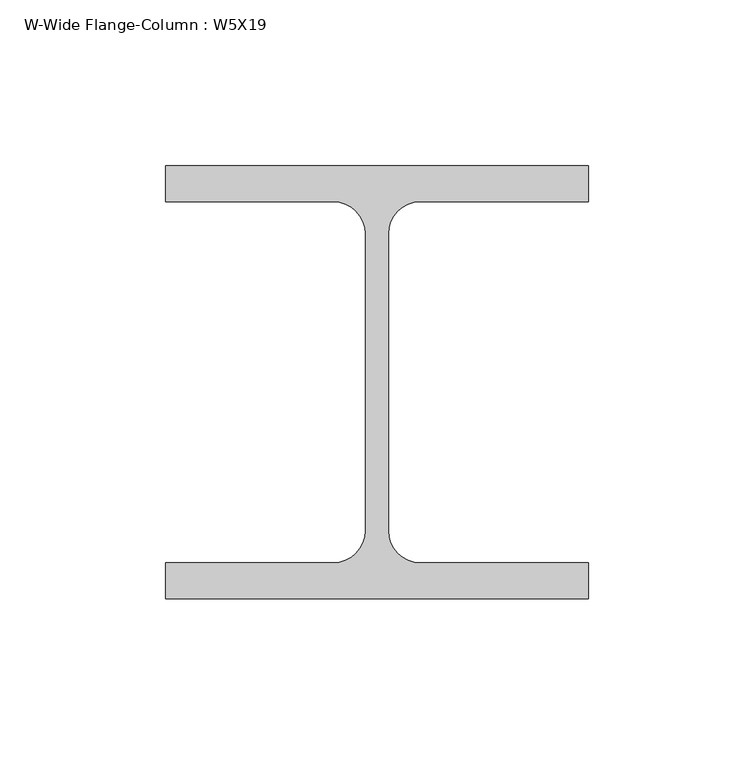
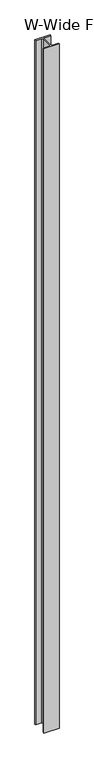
"""IFC4 building model written with IfcOpenShell, lengths in millimetres: column geometry, W-Wide Flange-Column : W5X19."""

from ifc_helpers import new_model, si_unit, point, frame_2d, origin, origin_with_axes, place, context, project, spatial, polyline, circle_curve, trimmed, segment, composite_curve, outline, extrude, source, transform, mapped, element, save


def w_wide_flange_column_w5x19_fcac8365(model_context):
    return source(origin(), model_context, "Body", "SweptSolid", [
        extrude(outline(composite_curve([segment(polyline([(63.881, 65.405), (63.881, 54.483), (13.1445, 54.483)]), True, "CONTINUOUS"), segment(trimmed(circle_curve(frame_2d((13.1445, 44.7675)), 9.7155), [point((13.1445, 54.483))], [point((3.429, 44.7675))], True, "CARTESIAN"), True, "CONTINUOUS"), segment(polyline([(3.429, 44.7675), (3.429, -44.7675)]), True, "CONTINUOUS"), segment(trimmed(circle_curve(frame_2d((13.1445, -44.7675)), 9.7155), [point((3.429, -44.7675))], [point((13.1445, -54.483))], True, "CARTESIAN"), True, "CONTINUOUS"), segment(polyline([(13.1445, -54.483), (63.881, -54.483), (63.881, -65.405), (-63.881, -65.405), (-63.881, -54.483), (-13.1445, -54.483)]), True, "CONTINUOUS"), segment(trimmed(circle_curve(frame_2d((-13.1445, -44.7675)), 9.7155), [point((-13.1445, -54.483))], [point((-3.429, -44.7675))], True, "CARTESIAN"), True, "CONTINUOUS"), segment(polyline([(-3.429, -44.7675), (-3.429, 44.7675)]), True, "CONTINUOUS"), segment(trimmed(circle_curve(frame_2d((-13.1445, 44.7675)), 9.7155), [point((-3.429, 44.7675))], [point((-13.1445, 54.483))], True, "CARTESIAN"), True, "CONTINUOUS"), segment(polyline([(-13.1445, 54.483), (-63.881, 54.483), (-63.881, 65.405), (63.881, 65.405)]), True, "CONTINUOUS")], self_intersect=False)), origin_with_axes(), (0.0, 0.0, 1.0), 6096.0),
    ])


if __name__ == "__main__":
    model = new_model("IFC4")
    model_context = context("Model", 3, world=origin())
    ifc_project = project(units=[si_unit("LENGTHUNIT", "METRE", prefix="MILLI")], contexts=[model_context])
    site = spatial("IfcSite", under=ifc_project)
    building = spatial("IfcBuilding", under=site)
    placement = place(None, origin())
    w_wide_flange_column_w5x19_shape = w_wide_flange_column_w5x19_fcac8365(model_context)
    element("IfcColumn", 1, ObjectType="W-Wide Flange-Column : W5X19", at=placement, inside=building, context=model_context, shape_type="MappedRepresentation", body=[
        mapped(w_wide_flange_column_w5x19_shape, transform((0.0, 0.0, 0.0), x_axis=(1.0, 0.0, 0.0), y_axis=(0.0, 1.0, 0.0), z_axis=(0.0, 0.0, 1.0))),
    ])
    save(model, "model.ifc")
